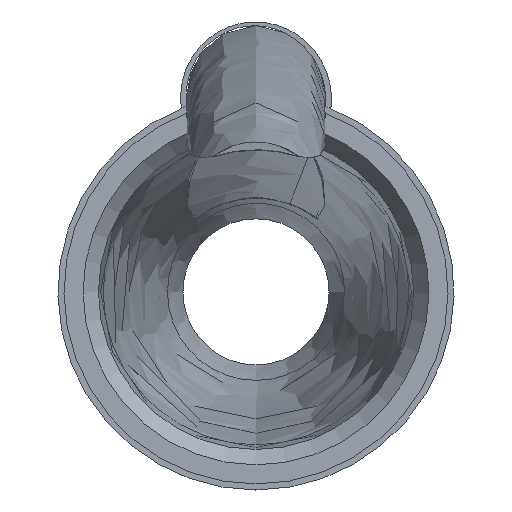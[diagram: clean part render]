
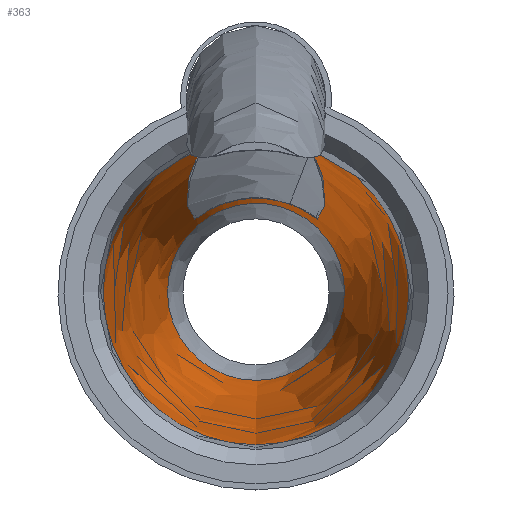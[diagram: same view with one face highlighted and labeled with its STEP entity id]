
A CAD part, front view. The second image highlights one B-rep face of the part: STEP entity #363.
In plain terms, the highlighted free-form (B-spline) face has degree [3, 3] with [5, 11] control points.
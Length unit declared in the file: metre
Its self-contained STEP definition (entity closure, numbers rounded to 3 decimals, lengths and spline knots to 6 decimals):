
#16=B_SPLINE_SURFACE_WITH_KNOTS('',3,3,((#1362,#1363,#1364,#1365,#1366,
#1367,#1368,#1369,#1370,#1371,#1372),(#1373,#1374,#1375,#1376,#1377,#1378,
#1379,#1380,#1381,#1382,#1383),(#1384,#1385,#1386,#1387,#1388,#1389,#1390,
#1391,#1392,#1393,#1394),(#1395,#1396,#1397,#1398,#1399,#1400,#1401,#1402,
#1403,#1404,#1405),(#1406,#1407,#1408,#1409,#1410,#1411,#1412,#1413,#1414,
#1415,#1416)),.UNSPECIFIED.,.F.,.T.,.F.,(4,1,4),(1,1,1,1,1,1,1,1,1,1,1,
1,1,1,1),(0.257431,0.528403,0.799376),(-2.356194,
-1.570796,-0.785398,0.,0.785398,1.570796,
2.356194,3.141593,3.926991,4.712389,5.497787,
6.283185,7.068583,7.853982,8.63938),
 .UNSPECIFIED.);
#51=CIRCLE('',#412,0.003975);
#53=CIRCLE('',#416,0.002301);
#150=ORIENTED_EDGE('',*,*,#212,.T.);
#151=ORIENTED_EDGE('',*,*,#213,.F.);
#152=ORIENTED_EDGE('',*,*,#208,.T.);
#153=ORIENTED_EDGE('',*,*,#214,.F.);
#154=ORIENTED_EDGE('',*,*,#215,.F.);
#208=EDGE_CURVE('',#248,#247,#51,.F.);
#212=EDGE_CURVE('',#249,#249,#53,.T.);
#213=EDGE_CURVE('',#248,#250,#271,.T.);
#214=EDGE_CURVE('',#251,#247,#272,.T.);
#215=EDGE_CURVE('',#250,#251,#273,.T.);
#247=VERTEX_POINT('',#1328);
#248=VERTEX_POINT('',#1330);
#249=VERTEX_POINT('',#1418);
#250=VERTEX_POINT('',#1427);
#251=VERTEX_POINT('',#1436);
#271=B_SPLINE_CURVE_WITH_KNOTS('',3,(#1419,#1420,#1421,#1422,#1423,#1424,
#1425,#1426),.UNSPECIFIED.,.F.,.F.,(4,1,1,1,1,4),(0.,0.00422,
0.008441,0.012661,0.014771,0.016882),
 .UNSPECIFIED.);
#272=B_SPLINE_CURVE_WITH_KNOTS('',3,(#1428,#1429,#1430,#1431,#1432,#1433,
#1434,#1435),.UNSPECIFIED.,.F.,.F.,(4,1,1,1,1,4),(0.,
0.002108,0.004216,0.008433,0.012649,
0.016865),.UNSPECIFIED.);
#273=B_SPLINE_CURVE_WITH_KNOTS('',3,(#1437,#1438,#1439,#1440,#1441),
 .UNSPECIFIED.,.F.,.F.,(4,1,4),(0.000354,0.00203,
0.003705),.UNSPECIFIED.);
#300=EDGE_LOOP('',(#150));
#301=EDGE_LOOP('',(#151,#152,#153,#154));
#333=FACE_BOUND('',#300,.T.);
#334=FACE_BOUND('',#301,.T.);
#363=ADVANCED_FACE('',(#333,#334),#16,.F.);
#412=AXIS2_PLACEMENT_3D('',#1329,#488,#489);
#416=AXIS2_PLACEMENT_3D('',#1417,#496,#497);
#488=DIRECTION('',(0.,1.,0.));
#489=DIRECTION('',(1.,0.,0.));
#496=DIRECTION('',(0.,1.,0.));
#497=DIRECTION('',(1.,0.,0.));
#1328=CARTESIAN_POINT('',(-0.091248,0.075598,-0.021992));
#1329=CARTESIAN_POINT('',(-0.092677,0.075598,-0.025701));
#1330=CARTESIAN_POINT('',(-0.094106,0.075598,-0.021992));
#1362=CARTESIAN_POINT('',(-0.089562,0.075598,-0.022586));
#1363=CARTESIAN_POINT('',(-0.092677,0.075598,-0.021296));
#1364=CARTESIAN_POINT('',(-0.095792,0.075598,-0.022586));
#1365=CARTESIAN_POINT('',(-0.097082,0.075598,-0.025701));
#1366=CARTESIAN_POINT('',(-0.095792,0.075598,-0.028816));
#1367=CARTESIAN_POINT('',(-0.092677,0.075598,-0.030106));
#1368=CARTESIAN_POINT('',(-0.089562,0.075598,-0.028816));
#1369=CARTESIAN_POINT('',(-0.088272,0.075598,-0.025701));
#1370=CARTESIAN_POINT('',(-0.089562,0.075598,-0.022586));
#1371=CARTESIAN_POINT('',(-0.092677,0.075598,-0.021296));
#1372=CARTESIAN_POINT('',(-0.095792,0.075598,-0.022586));
#1373=CARTESIAN_POINT('',(-0.089713,0.079507,-0.022737));
#1374=CARTESIAN_POINT('',(-0.092677,0.079507,-0.021509));
#1375=CARTESIAN_POINT('',(-0.095641,0.079507,-0.022737));
#1376=CARTESIAN_POINT('',(-0.096869,0.079507,-0.025701));
#1377=CARTESIAN_POINT('',(-0.095641,0.079507,-0.028665));
#1378=CARTESIAN_POINT('',(-0.092677,0.079507,-0.029893));
#1379=CARTESIAN_POINT('',(-0.089713,0.079507,-0.028665));
#1380=CARTESIAN_POINT('',(-0.088485,0.079507,-0.025701));
#1381=CARTESIAN_POINT('',(-0.089713,0.079507,-0.022737));
#1382=CARTESIAN_POINT('',(-0.092677,0.079507,-0.021509));
#1383=CARTESIAN_POINT('',(-0.095641,0.079507,-0.022737));
#1384=CARTESIAN_POINT('',(-0.090048,0.086286,-0.023072));
#1385=CARTESIAN_POINT('',(-0.092677,0.086286,-0.021983));
#1386=CARTESIAN_POINT('',(-0.095306,0.086286,-0.023072));
#1387=CARTESIAN_POINT('',(-0.096395,0.086286,-0.025701));
#1388=CARTESIAN_POINT('',(-0.095306,0.086286,-0.02833));
#1389=CARTESIAN_POINT('',(-0.092677,0.086286,-0.029419));
#1390=CARTESIAN_POINT('',(-0.090048,0.086286,-0.02833));
#1391=CARTESIAN_POINT('',(-0.088959,0.086286,-0.025701));
#1392=CARTESIAN_POINT('',(-0.090048,0.086286,-0.023072));
#1393=CARTESIAN_POINT('',(-0.092677,0.086286,-0.021983));
#1394=CARTESIAN_POINT('',(-0.095306,0.086286,-0.023072));
#1395=CARTESIAN_POINT('',(-0.090554,0.091283,-0.023578));
#1396=CARTESIAN_POINT('',(-0.092677,0.091283,-0.022699));
#1397=CARTESIAN_POINT('',(-0.0948,0.091283,-0.023578));
#1398=CARTESIAN_POINT('',(-0.095679,0.091283,-0.025701));
#1399=CARTESIAN_POINT('',(-0.0948,0.091283,-0.027824));
#1400=CARTESIAN_POINT('',(-0.092677,0.091283,-0.028703));
#1401=CARTESIAN_POINT('',(-0.090554,0.091283,-0.027824));
#1402=CARTESIAN_POINT('',(-0.089675,0.091283,-0.025701));
#1403=CARTESIAN_POINT('',(-0.090554,0.091283,-0.023578));
#1404=CARTESIAN_POINT('',(-0.092677,0.091283,-0.022699));
#1405=CARTESIAN_POINT('',(-0.0948,0.091283,-0.023578));
#1406=CARTESIAN_POINT('',(-0.090874,0.093403,-0.023898));
#1407=CARTESIAN_POINT('',(-0.092677,0.093403,-0.023151));
#1408=CARTESIAN_POINT('',(-0.09448,0.093403,-0.023898));
#1409=CARTESIAN_POINT('',(-0.095227,0.093403,-0.025701));
#1410=CARTESIAN_POINT('',(-0.09448,0.093403,-0.027504));
#1411=CARTESIAN_POINT('',(-0.092677,0.093403,-0.028251));
#1412=CARTESIAN_POINT('',(-0.090874,0.093403,-0.027504));
#1413=CARTESIAN_POINT('',(-0.090127,0.093403,-0.025701));
#1414=CARTESIAN_POINT('',(-0.090874,0.093403,-0.023898));
#1415=CARTESIAN_POINT('',(-0.092677,0.093403,-0.023151));
#1416=CARTESIAN_POINT('',(-0.09448,0.093403,-0.023898));
#1417=CARTESIAN_POINT('',(-0.092677,0.093403,-0.025701));
#1418=CARTESIAN_POINT('',(-0.090376,0.093403,-0.025701));
#1419=CARTESIAN_POINT('',(-0.094106,0.075598,-0.021992));
#1420=CARTESIAN_POINT('',(-0.094142,0.077002,-0.02208));
#1421=CARTESIAN_POINT('',(-0.094249,0.079806,-0.022285));
#1422=CARTESIAN_POINT('',(-0.094426,0.084002,-0.022693));
#1423=CARTESIAN_POINT('',(-0.0945,0.087494,-0.023122));
#1424=CARTESIAN_POINT('',(-0.094432,0.090278,-0.023498));
#1425=CARTESIAN_POINT('',(-0.094333,0.091668,-0.023686));
#1426=CARTESIAN_POINT('',(-0.094234,0.092364,-0.023759));
#1427=CARTESIAN_POINT('',(-0.094234,0.092364,-0.023759));
#1428=CARTESIAN_POINT('',(-0.09112,0.092364,-0.023759));
#1429=CARTESIAN_POINT('',(-0.091021,0.09167,-0.023687));
#1430=CARTESIAN_POINT('',(-0.090922,0.090281,-0.023498));
#1431=CARTESIAN_POINT('',(-0.090854,0.087493,-0.023122));
#1432=CARTESIAN_POINT('',(-0.090928,0.084002,-0.022693));
#1433=CARTESIAN_POINT('',(-0.091105,0.079806,-0.022285));
#1434=CARTESIAN_POINT('',(-0.091212,0.077002,-0.02208));
#1435=CARTESIAN_POINT('',(-0.091248,0.075598,-0.021992));
#1436=CARTESIAN_POINT('',(-0.09112,0.092364,-0.023759));
#1437=CARTESIAN_POINT('',(-0.094234,0.092364,-0.023759));
#1438=CARTESIAN_POINT('',(-0.093797,0.0925,-0.023438));
#1439=CARTESIAN_POINT('',(-0.092678,0.09266,-0.023061));
#1440=CARTESIAN_POINT('',(-0.09156,0.092501,-0.023436));
#1441=CARTESIAN_POINT('',(-0.09112,0.092364,-0.023759));
